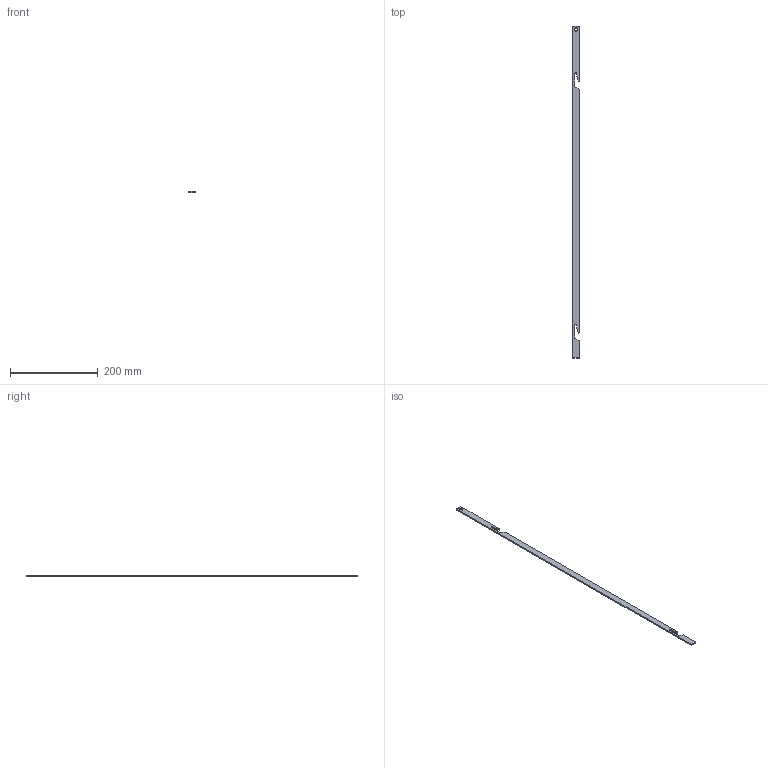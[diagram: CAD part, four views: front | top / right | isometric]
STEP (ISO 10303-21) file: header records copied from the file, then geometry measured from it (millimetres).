
FILE_DESCRIPTION (( 'STEP AP214' ), '1' );
FILE_NAME ('PP48-751.STEP', '2016-09-08T08:23:59', ( '' ), ( '' ), 'SwSTEP 2.0', 'SolidWorks 2015', '' );
FILE_SCHEMA (( 'AUTOMOTIVE_DESIGN' ));
Length unit declared in the file: millimetre
Products named in the file (1): PP48-751
Bounding box: 14 x 758.5 x 3 mm (x, y, z)
Volume: 30274.9 mm3; surface area: 25202.2 mm2
Topology: 1 solids, 1 shells, 29 faces, 81 edges, 54 vertices
Faces by surface type: plane 18, cylinder 11
Entity records: 975 total; most frequent: CARTESIAN_POINT 165, DIRECTION 163, ORIENTED_EDGE 162, EDGE_CURVE 81, VECTOR 59, LINE 59, VERTEX_POINT 54, AXIS2_PLACEMENT_3D 52
